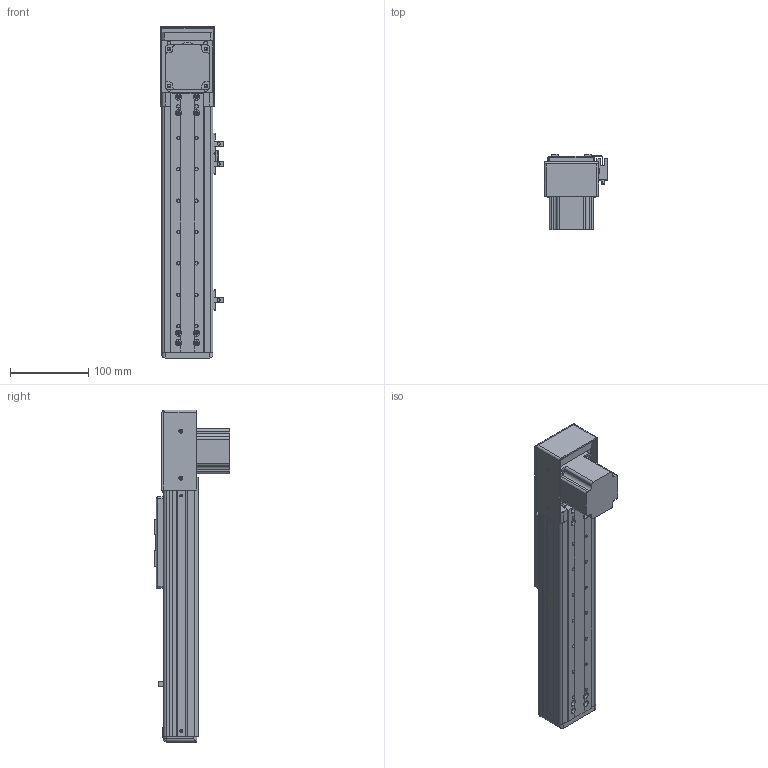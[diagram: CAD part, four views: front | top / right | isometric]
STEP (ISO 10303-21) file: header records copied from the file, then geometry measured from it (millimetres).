
FILE_DESCRIPTION (( 'STEP AP203' ), '1' );
FILE_NAME ('RY60F-T-350-DK.SLDASM_150.step', '2021-03-02T00:56:20', ( '盈信电脑' ), ( '东莞市道滘镇水果街19号' ), 'SwSTEP 2.0', 'SolidWorks 2012', '' );
FILE_SCHEMA (( 'CONFIG_CONTROL_DESIGN' ));
Length unit declared in the file: millimetre
Products named in the file (19): RY60F-肮祭湍臏賑輸; RY60F-浮动端同步轮支撑座; RY60F-祥凄詩滅鳥裔; RY50-60詩湍揤啣; RY60F-嫖萇羲壽結え; RY60F-滅鳥詩え盓殤; RY60F-T-350-DK.SLDASM_150; RY60F-T-狟殏欶; 57祭輛萇儂; RY60F-肮祭湍揤輸2; RY60F-T-57萇儂奻殏假蚾啣; RY60F-肮祭湍揤輸; RY60F-T-下折同步带拉紧板; RY50F-350-MR15W絳寢-DK_150; 滅袉蝶18-24; 覜茼ん672; RY60F-350-肮祭湍滅鳥詩え-DK_150; RY60F-350肮祭湍俋褲-DK_150; RY60F-T-下折57电机端同步轮座
Assembly tree (23 placements, depth 2):
  RY60F-T-350-DK.SLDASM_150
    RY60F-肮祭湍臏賑輸
    RY60F-浮动端同步轮支撑座
    RY60F-滅鳥詩え盓殤
    RY60F-嫖萇羲壽結え
    RY50-60詩湍揤啣  x2
    RY60F-祥凄詩滅鳥裔
    RY60F-T-下折57电机端同步轮座
    RY60F-350肮祭湍俋褲-DK_150  x2
    覜茼ん672  x3
    RY60F-350-肮祭湍滅鳥詩え-DK_150
    RY50F-350-MR15W絳寢-DK_150
    滅袉蝶18-24  x2
    RY60F-T-57萇儂奻殏假蚾啣
    RY60F-T-下折同步带拉紧板
    RY60F-肮祭湍揤輸
    RY60F-肮祭湍揤輸2
    57祭輛萇儂
    RY60F-T-狟殏欶
Bounding box: 80.76 x 96.5 x 423 mm (x, y, z)
Volume: 643388.4 mm3; surface area: 343096.5 mm2
Topology: 23 solids, 23 shells, 1130 faces, 3086 edges, 1980 vertices
Faces by surface type: plane 546, cylinder 503, cone 71, bspline 10
Entity records: 34501 total; most frequent: CARTESIAN_POINT 6289, DIRECTION 5524, ORIENTED_EDGE 5348, EDGE_CURVE 2674, AXIS2_PLACEMENT_3D 1923, VERTEX_POINT 1748, VECTOR 1678, LINE 1678
